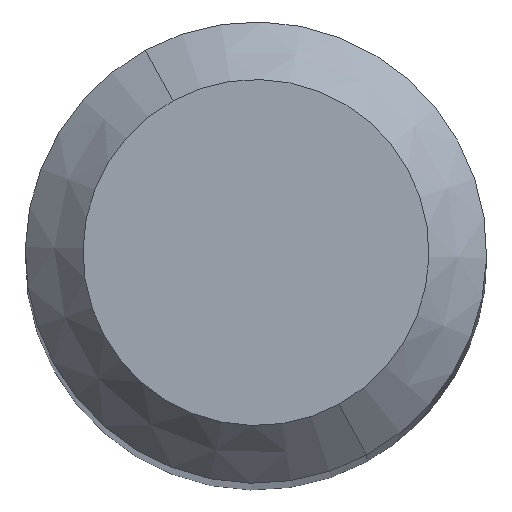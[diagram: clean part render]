
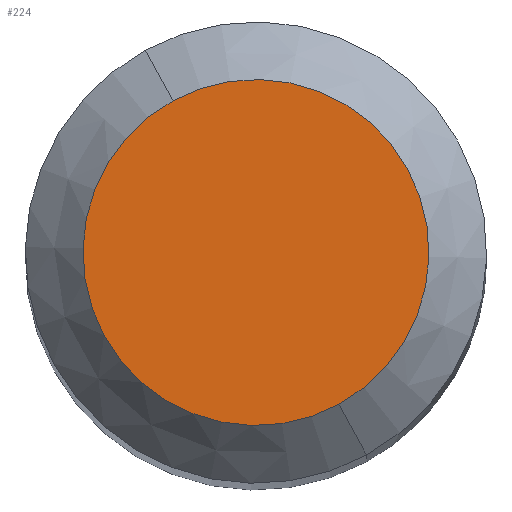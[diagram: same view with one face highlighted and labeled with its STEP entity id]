
A CAD part, top view. The second image highlights one B-rep face of the part: STEP entity #224.
In plain terms, the highlighted planar face has unit normal (0, 0, 1).
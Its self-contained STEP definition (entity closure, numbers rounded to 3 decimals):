
#39=AXIS2_PLACEMENT_3D('Circle Axis2P3D',#37,#38,$) ;
#87=AXIS2_PLACEMENT_3D('Circle Axis2P3D',#85,#86,$) ;
#218=AXIS2_PLACEMENT_3D('Plane Axis2P3D',#215,#216,#217) ;
#37=CARTESIAN_POINT('Axis2P3D Location',(0.,0.,36.)) ;
#41=CARTESIAN_POINT('Vertex',(1.438,-2.633,36.)) ;
#43=CARTESIAN_POINT('Vertex',(-1.438,2.633,36.)) ;
#85=CARTESIAN_POINT('Axis2P3D Location',(0.,0.,36.)) ;
#215=CARTESIAN_POINT('Axis2P3D Location',(0.,-3.,36.)) ;
#38=DIRECTION('Axis2P3D Direction',(0.,0.,-1.)) ;
#86=DIRECTION('Axis2P3D Direction',(0.,0.,-1.)) ;
#216=DIRECTION('Axis2P3D Direction',(0.,0.,1.)) ;
#217=DIRECTION('Axis2P3D XDirection',(1.,0.,0.)) ;
#221=ORIENTED_EDGE('',*,*,#45,.T.) ;
#222=ORIENTED_EDGE('',*,*,#89,.T.) ;
#224=ADVANCED_FACE('NOCUT',(#223),#219,.T.) ;
#40=CIRCLE('generated circle',#39,3.) ;
#88=CIRCLE('generated circle',#87,3.) ;
#45=EDGE_CURVE('',#42,#44,#40,.F.) ;
#89=EDGE_CURVE('',#44,#42,#88,.F.) ;
#220=EDGE_LOOP('',(#221,#222)) ;
#223=FACE_OUTER_BOUND('',#220,.T.) ;
#219=PLANE('',#218) ;
#42=VERTEX_POINT('',#41) ;
#44=VERTEX_POINT('',#43) ;
